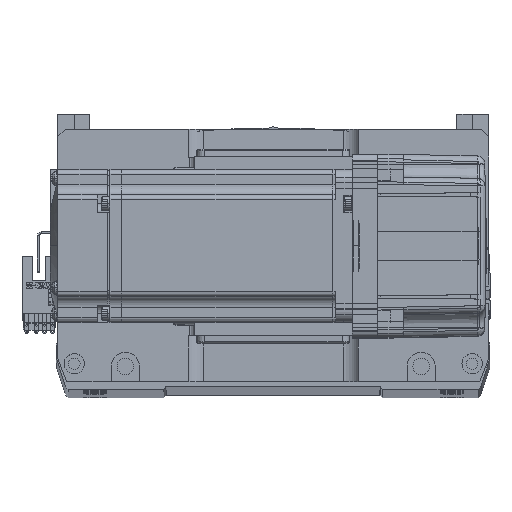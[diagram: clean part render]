
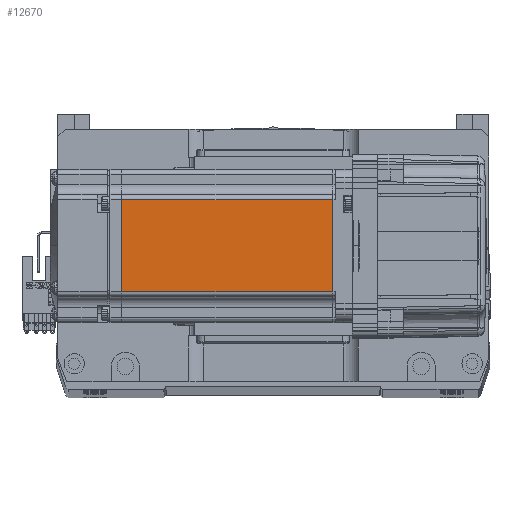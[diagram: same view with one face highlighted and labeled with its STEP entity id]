
A CAD part, top view. The second image highlights one B-rep face of the part: STEP entity #12670.
In plain terms, the highlighted planar face has unit normal (0, 0, 1).
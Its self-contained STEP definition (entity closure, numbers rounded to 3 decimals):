
#1326 = EDGE_LOOP ( 'NONE', ( #11585, #2518, #51389, #22417 ) ) ;
#1426 = VERTEX_POINT ( 'NONE', #8942 ) ;
#2518 = ORIENTED_EDGE ( 'NONE', *, *, #64825, .T. ) ;
#2897 = DIRECTION ( 'NONE',  ( 0., -1., 0. ) ) ;
#4594 = CARTESIAN_POINT ( 'NONE',  ( -6.5, -25., 30. ) ) ;
#5507 = VECTOR ( 'NONE', #56619, 1000. ) ;
#8942 = CARTESIAN_POINT ( 'NONE',  ( -7.75, -18., 30. ) ) ;
#9865 = EDGE_CURVE ( 'NONE', #31052, #1426, #66693, .T. ) ;
#10928 = CARTESIAN_POINT ( 'NONE',  ( -7.75, 18., 30. ) ) ;
#11585 = ORIENTED_EDGE ( 'NONE', *, *, #9865, .F. ) ;
#12670 = ADVANCED_FACE ( 'NONE', ( #28456 ), #20228, .T. ) ;
#13220 = VERTEX_POINT ( 'NONE', #21798 ) ;
#14854 = LINE ( 'NONE', #57818, #48009 ) ;
#20228 = PLANE ( 'NONE',  #60938 ) ;
#21798 = CARTESIAN_POINT ( 'NONE',  ( -90.45, 18., 30. ) ) ;
#22417 = ORIENTED_EDGE ( 'NONE', *, *, #45377, .F. ) ;
#28456 = FACE_OUTER_BOUND ( 'NONE', #1326, .T. ) ;
#29117 = CARTESIAN_POINT ( 'NONE',  ( -7.75, 0., 30. ) ) ;
#31052 = VERTEX_POINT ( 'NONE', #10928 ) ;
#32979 = LINE ( 'NONE', #51409, #65303 ) ;
#34846 = VERTEX_POINT ( 'NONE', #45296 ) ;
#36997 = DIRECTION ( 'NONE',  ( -1., 0., 0. ) ) ;
#45296 = CARTESIAN_POINT ( 'NONE',  ( -90.45, -18., 30. ) ) ;
#45377 = EDGE_CURVE ( 'NONE', #1426, #34846, #14854, .T. ) ;
#45718 = DIRECTION ( 'NONE',  ( 0., -1., 0. ) ) ;
#48009 = VECTOR ( 'NONE', #36997, 1000. ) ;
#51389 = ORIENTED_EDGE ( 'NONE', *, *, #51529, .T. ) ;
#51409 = CARTESIAN_POINT ( 'NONE',  ( -90.45, 0., 30. ) ) ;
#51529 = EDGE_CURVE ( 'NONE', #13220, #34846, #32979, .T. ) ;
#52979 = VECTOR ( 'NONE', #2897, 1000. ) ;
#53266 = LINE ( 'NONE', #62211, #5507 ) ;
#56612 = DIRECTION ( 'NONE',  ( 0., 0., 1. ) ) ;
#56619 = DIRECTION ( 'NONE',  ( -1., 0., 0. ) ) ;
#57818 = CARTESIAN_POINT ( 'NONE',  ( -6.5, -18., 30. ) ) ;
#60938 = AXIS2_PLACEMENT_3D ( 'NONE', #4594, #56612, #61329 ) ;
#61329 = DIRECTION ( 'NONE',  ( 1., 0., 0. ) ) ;
#62211 = CARTESIAN_POINT ( 'NONE',  ( -6.5, 18., 30. ) ) ;
#64825 = EDGE_CURVE ( 'NONE', #31052, #13220, #53266, .T. ) ;
#65303 = VECTOR ( 'NONE', #45718, 1000. ) ;
#66693 = LINE ( 'NONE', #29117, #52979 ) ;
